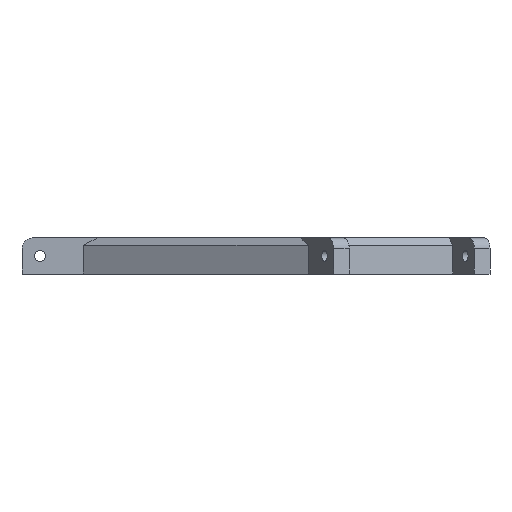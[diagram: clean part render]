
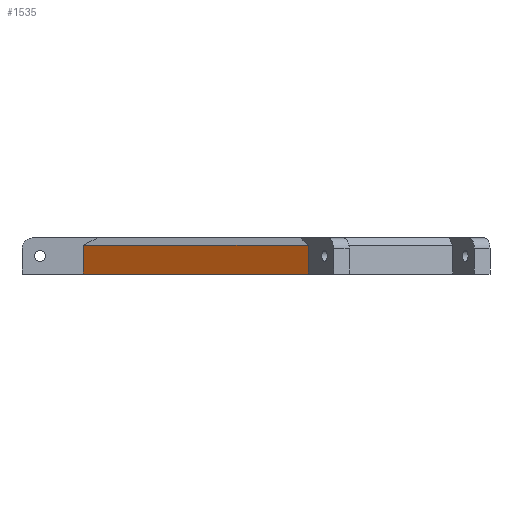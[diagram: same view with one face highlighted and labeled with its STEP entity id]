
A CAD part, left-side view. The second image highlights one B-rep face of the part: STEP entity #1535.
In plain terms, the highlighted planar face has unit normal (-0.856, 0.518, 0).
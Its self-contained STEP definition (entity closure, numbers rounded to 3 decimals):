
#152=FACE_OUTER_BOUND('',#237,.T.);
#237=EDGE_LOOP('',(#1181,#1182,#1183,#1184));
#401=LINE('',#2354,#579);
#403=LINE('',#2358,#581);
#404=LINE('',#2360,#582);
#405=LINE('',#2361,#583);
#579=VECTOR('',#1879,10.);
#581=VECTOR('',#1883,10.);
#582=VECTOR('',#1884,10.);
#583=VECTOR('',#1885,10.);
#743=VERTEX_POINT('',#2351);
#744=VERTEX_POINT('',#2353);
#745=VERTEX_POINT('',#2357);
#746=VERTEX_POINT('',#2359);
#913=EDGE_CURVE('',#743,#744,#401,.T.);
#915=EDGE_CURVE('',#745,#743,#403,.T.);
#916=EDGE_CURVE('',#746,#745,#404,.T.);
#917=EDGE_CURVE('',#746,#744,#405,.T.);
#1181=ORIENTED_EDGE('',*,*,#913,.F.);
#1182=ORIENTED_EDGE('',*,*,#915,.F.);
#1183=ORIENTED_EDGE('',*,*,#916,.F.);
#1184=ORIENTED_EDGE('',*,*,#917,.T.);
#1467=PLANE('',#1628);
#1535=ADVANCED_FACE('',(#152),#1467,.T.);
#1628=AXIS2_PLACEMENT_3D('',#2356,#1881,#1882);
#1879=DIRECTION('',(-0.518,-0.856,0.));
#1881=DIRECTION('center_axis',(-0.856,0.518,0.));
#1882=DIRECTION('ref_axis',(0.518,0.856,0.));
#1883=DIRECTION('',(0.,0.,1.));
#1884=DIRECTION('',(0.518,0.856,0.));
#1885=DIRECTION('',(0.,0.,1.));
#2351=CARTESIAN_POINT('',(-25.025,55.,8.));
#2353=CARTESIAN_POINT('',(-62.742,-7.328,8.));
#2354=CARTESIAN_POINT('',(-43.388,24.654,8.));
#2356=CARTESIAN_POINT('Origin',(-62.742,-7.328,10.));
#2357=CARTESIAN_POINT('',(-25.025,55.,0.));
#2358=CARTESIAN_POINT('',(-25.025,55.,0.));
#2359=CARTESIAN_POINT('',(-62.742,-7.328,0.));
#2360=CARTESIAN_POINT('',(-25.025,55.,0.));
#2361=CARTESIAN_POINT('',(-62.742,-7.328,0.));
